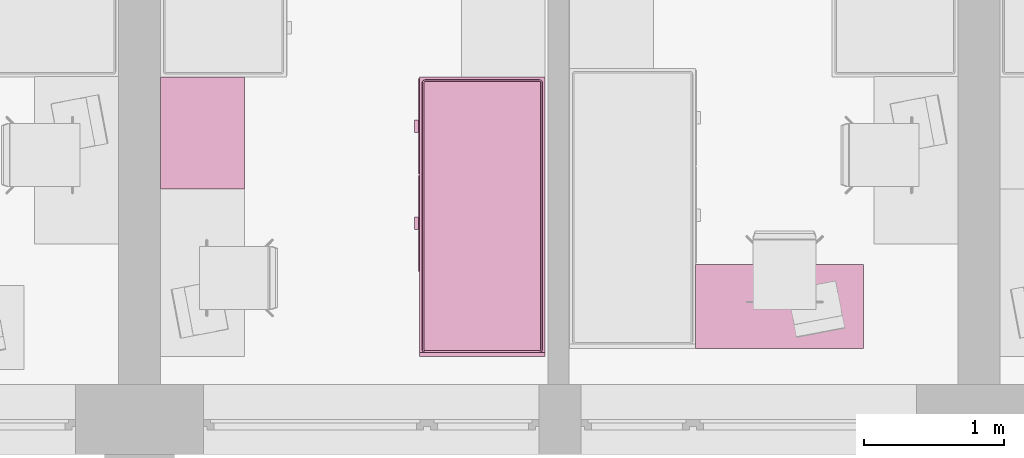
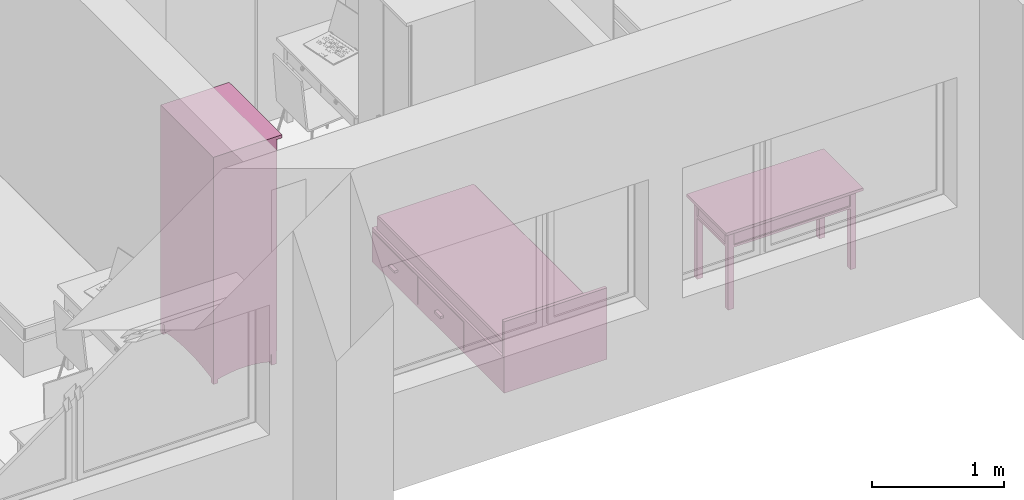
# One storey, part 97 of 172: 3 furnishings.
"""IFC2X3 building model written with IfcOpenShell, lengths in millimetres."""

from ifc_helpers import new_model, entity, si_unit, converted_unit, money_unit, direction, frame, origin_with_axes, place, context, subcontext, project, spatial, faceted_brep, source, transform, mapped, material, material_list, type_object, element, save


model = new_model("IFC2X3")

# Units and contexts
model_context = context("Model", 3, precision=1e-05, world=origin_with_axes(), true_north=direction((0.0, 1.0)))
body_context = subcontext(model_context, "Body", "Model", "MODEL_VIEW")
ifc_project = project(units=[si_unit("LENGTHUNIT", "METRE", prefix="MILLI"), si_unit("AREAUNIT", "SQUARE_METRE"), si_unit("VOLUMEUNIT", "CUBIC_METRE"), converted_unit("PLANEANGLEUNIT", "DEGREE", entity("IfcPlaneAngleMeasure", 0.0174532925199), si_unit("PLANEANGLEUNIT", "RADIAN"), dimensions=[0, 0, 0, 0, 0, 0, 0]), si_unit("SOLIDANGLEUNIT", "STERADIAN"), money_unit("USD"), converted_unit("TIMEUNIT", "Year", entity("IfcTimeMeasure", 31556926.0), si_unit("TIMEUNIT", "SECOND"), dimensions=[0, 0, 0, 0, 0, 0, 0]), si_unit("MASSUNIT", "GRAM"), si_unit("THERMODYNAMICTEMPERATUREUNIT", "DEGREE_CELSIUS"), si_unit("LUMINOUSINTENSITYUNIT", "LUMEN")], contexts=[model_context])

# Site, building, storey
site_placement = place(None, origin_with_axes())
site = spatial("IfcSite", under=ifc_project, at=site_placement, Name="Site", CompositionType="ELEMENT")
building_placement = place(site_placement, origin_with_axes())
building = spatial("IfcBuilding", under=site, at=building_placement, Name="Building", CompositionType="ELEMENT")
storey_placement = place(building_placement, frame((0.0, 0.0, 3200.0), z_axis=(0.0, 0.0, 1.0), x_axis=(1.0, 0.0, 0.0)))
storey = spatial("IfcBuildingStorey", under=building, at=storey_placement, Name="3KORRUS", CompositionType="ELEMENT", Elevation=3200.0)

# Furnishings
ifc_material = material(Name="Background")
ifc_material_list = material_list([ifc_material])
furnishing_element_type_1 = type_object("IfcFurnishingElementType", Name="Bed 19")
shared_shape_1 = source(origin_with_axes(), body_context, "Body", "Brep", [
    faceted_brep([(900.0, 1970.0, 0.0), (0.0, 1970.0, 0.0), (0.0, 2000.0, 0.0), (900.0, 2000.0, 0.0), (900.0, 1970.0, 660.0), (0.0, 1970.0, 660.0), (0.0, 2000.0, 660.0), (900.0, 2000.0, 660.0)], [[[0, 1, 2, 3]], [[1, 0, 4, 5]], [[2, 1, 5, 6]], [[3, 2, 6, 7]], [[0, 3, 7, 4]], [[5, 4, 7, 6]]]),
    faceted_brep([(900.0, 0.0, 0.0), (0.0, 0.0, 0.0), (0.0, 1970.0, 0.0), (900.0, 1970.0, 0.0), (900.0, 0.0, 320.0), (0.0, 0.0, 320.0), (0.0, 1970.0, 320.0), (900.0, 1970.0, 320.0)], [[[0, 1, 2, 3]], [[1, 0, 4, 5]], [[2, 1, 5, 6]], [[3, 2, 6, 7]], [[0, 3, 7, 4]], [[5, 4, 7, 6]]]),
    faceted_brep([(905.0, 10.0, 30.0), (900.0, 10.0, 30.0), (900.0, 695.0, 30.0), (905.0, 695.0, 30.0), (905.0, 10.0, 290.0), (900.0, 10.0, 290.0), (900.0, 695.0, 290.0), (905.0, 695.0, 290.0)], [[[0, 1, 2, 3]], [[1, 0, 4, 5]], [[2, 1, 5, 6]], [[3, 2, 6, 7]], [[0, 3, 7, 4]], [[5, 4, 7, 6]]]),
    faceted_brep([(935.0, 307.5, 150.0), (905.0, 307.5, 150.0), (905.0, 397.5, 150.0), (935.0, 397.5, 150.0), (935.0, 307.5, 170.0), (905.0, 307.5, 170.0), (905.0, 397.5, 170.0), (935.0, 397.5, 170.0)], [[[0, 1, 2, 3]], [[1, 0, 4, 5]], [[2, 1, 5, 6]], [[3, 2, 6, 7]], [[0, 3, 7, 4]], [[5, 4, 7, 6]]]),
    faceted_brep([(905.0, 705.0, 30.0), (900.0, 705.0, 30.0), (900.0, 1390.0, 30.0), (905.0, 1390.0, 30.0), (905.0, 705.0, 290.0), (900.0, 705.0, 290.0), (900.0, 1390.0, 290.0), (905.0, 1390.0, 290.0)], [[[0, 1, 2, 3]], [[1, 0, 4, 5]], [[2, 1, 5, 6]], [[3, 2, 6, 7]], [[0, 3, 7, 4]], [[5, 4, 7, 6]]]),
    faceted_brep([(935.0, 1002.5, 150.0), (905.0, 1002.5, 150.0), (905.0, 1092.5, 150.0), (935.0, 1092.5, 150.0), (935.0, 1002.5, 170.0), (905.0, 1002.5, 170.0), (905.0, 1092.5, 170.0), (935.0, 1092.5, 170.0)], [[[0, 1, 2, 3]], [[1, 0, 4, 5]], [[2, 1, 5, 6]], [[3, 2, 6, 7]], [[0, 3, 7, 4]], [[5, 4, 7, 6]]]),
    faceted_brep([(20.0, 40.0, 350.0), (20.0, 1950.0, 350.0), (21.522, 1957.654, 350.0), (25.858, 1964.142, 350.0), (32.346, 1968.478, 350.0), (40.0, 1970.0, 350.0), (860.0, 1970.0, 350.0), (867.654, 1968.478, 350.0), (874.142, 1964.142, 350.0), (878.478, 1957.654, 350.0), (880.0, 1950.0, 350.0), (880.0, 40.0, 350.0), (878.478, 32.346, 350.0), (874.142, 25.858, 350.0), (867.654, 21.522, 350.0), (860.0, 20.0, 350.0), (40.0, 20.0, 350.0), (32.346, 21.522, 350.0), (25.858, 25.858, 350.0), (21.522, 32.346, 350.0), (20.0, 40.0, 420.0), (20.0, 1950.0, 420.0), (21.522, 1957.654, 420.0), (25.858, 1964.142, 420.0), (32.346, 1968.478, 420.0), (40.0, 1970.0, 420.0), (860.0, 1970.0, 420.0), (867.654, 1968.478, 420.0), (874.142, 1964.142, 420.0), (878.478, 1957.654, 420.0), (880.0, 1950.0, 420.0), (880.0, 40.0, 420.0), (878.478, 32.346, 420.0), (874.142, 25.858, 420.0), (867.654, 21.522, 420.0), (860.0, 20.0, 420.0), (40.0, 20.0, 420.0), (32.346, 21.522, 420.0), (25.858, 25.858, 420.0), (21.522, 32.346, 420.0), (21.522, 40.15, 427.654), (21.522, 1949.85, 427.654), (22.956, 1957.06, 427.654), (26.955, 1963.045, 427.654), (32.94, 1967.044, 427.654), (40.15, 1968.478, 427.654), (859.85, 1968.478, 427.654), (867.06, 1967.044, 427.654), (873.045, 1963.045, 427.654), (877.044, 1957.06, 427.654), (878.478, 1949.85, 427.654), (878.478, 40.15, 427.654), (877.044, 32.94, 427.654), (873.045, 26.955, 427.654), (867.06, 22.956, 427.654), (859.85, 21.522, 427.654), (40.15, 21.522, 427.654), (32.94, 22.956, 427.654), (26.955, 26.955, 427.654), (22.956, 32.94, 427.654), (32.346, 41.216, 438.478), (32.346, 1948.784, 438.478), (33.152, 1952.836, 438.478), (34.759, 1955.241, 438.478), (37.164, 1956.848, 438.478), (41.216, 1957.654, 438.478), (858.784, 1957.654, 438.478), (862.836, 1956.848, 438.478), (865.241, 1955.241, 438.478), (866.848, 1952.836, 438.478), (867.654, 1948.784, 438.478), (867.654, 41.216, 438.478), (866.848, 37.164, 438.478), (865.241, 34.759, 438.478), (862.836, 33.152, 438.478), (858.784, 32.346, 438.478), (41.216, 32.346, 438.478), (37.164, 33.152, 438.478), (34.759, 34.759, 438.478), (33.152, 37.164, 438.478), (40.0, 41.97, 440.0), (40.0, 1948.03, 440.0), (40.327, 1949.673, 440.0), (40.0, 1950.0, 439.924), (41.97, 1950.0, 440.0), (858.03, 1950.0, 440.0), (859.673, 1949.673, 440.0), (860.0, 1950.0, 439.924), (860.0, 1948.03, 440.0), (860.0, 41.97, 440.0), (859.673, 40.327, 440.0), (860.0, 40.0, 439.924), (858.03, 40.0, 440.0), (41.97, 40.0, 440.0), (40.327, 40.327, 440.0), (40.0, 40.0, 439.924)], [[[0, 1, 2, 3, 4, 5, 6, 7, 8, 9, 10, 11, 12, 13, 14, 15, 16, 17, 18, 19]], [[1, 0, 20, 21]], [[2, 1, 21, 22]], [[3, 2, 22, 23]], [[4, 3, 23, 24]], [[5, 4, 24, 25]], [[6, 5, 25, 26]], [[7, 6, 26, 27]], [[8, 7, 27, 28]], [[9, 8, 28, 29]], [[10, 9, 29, 30]], [[11, 10, 30, 31]], [[12, 11, 31, 32]], [[13, 12, 32, 33]], [[14, 13, 33, 34]], [[15, 14, 34, 35]], [[16, 15, 35, 36]], [[17, 16, 36, 37]], [[18, 17, 37, 38]], [[19, 18, 38, 39]], [[0, 19, 39, 20]], [[21, 20, 40, 41]], [[22, 21, 41, 42]], [[23, 22, 42, 43]], [[24, 23, 43, 44]], [[25, 24, 44, 45]], [[26, 25, 45, 46]], [[27, 26, 46, 47]], [[28, 27, 47, 48]], [[29, 28, 48, 49]], [[30, 29, 49, 50]], [[31, 30, 50, 51]], [[32, 31, 51, 52]], [[33, 32, 52, 53]], [[34, 33, 53, 54]], [[35, 34, 54, 55]], [[36, 35, 55, 56]], [[37, 36, 56, 57]], [[38, 37, 57, 58]], [[39, 38, 58, 59]], [[20, 39, 59, 40]], [[41, 40, 60, 61]], [[42, 41, 61, 62]], [[43, 42, 62, 63]], [[44, 43, 63, 64]], [[45, 44, 64, 65]], [[46, 45, 65, 66]], [[47, 46, 66, 67]], [[48, 47, 67, 68]], [[49, 48, 68, 69]], [[50, 49, 69, 70]], [[51, 50, 70, 71]], [[52, 51, 71, 72]], [[53, 52, 72, 73]], [[54, 53, 73, 74]], [[55, 54, 74, 75]], [[56, 55, 75, 76]], [[57, 56, 76, 77]], [[58, 57, 77, 78]], [[59, 58, 78, 79]], [[40, 59, 79, 60]], [[61, 60, 80, 81]], [[62, 61, 81, 82, 83]], [[63, 62, 83]], [[64, 63, 83]], [[65, 64, 83, 82, 84]], [[66, 65, 84, 85]], [[67, 66, 85, 86, 87]], [[68, 67, 87]], [[69, 68, 87]], [[70, 69, 87, 86, 88]], [[71, 70, 88, 89]], [[72, 71, 89, 90, 91]], [[73, 72, 91]], [[74, 73, 91]], [[75, 74, 91, 90, 92]], [[76, 75, 92, 93]], [[77, 76, 93, 94, 95]], [[78, 77, 95]], [[79, 78, 95]], [[60, 79, 95, 94, 80]], [[81, 80, 94, 93, 92, 90, 89, 88, 86, 85, 84, 82]]]),
    faceted_brep([(20.0, 40.0, 350.0), (21.522, 32.346, 350.0), (25.858, 25.858, 350.0), (32.346, 21.522, 350.0), (40.0, 20.0, 350.0), (860.0, 20.0, 350.0), (867.654, 21.522, 350.0), (874.142, 25.858, 350.0), (878.478, 32.346, 350.0), (880.0, 40.0, 350.0), (880.0, 1950.0, 350.0), (878.478, 1957.654, 350.0), (874.142, 1964.142, 350.0), (867.654, 1968.478, 350.0), (860.0, 1970.0, 350.0), (40.0, 1970.0, 350.0), (32.346, 1968.478, 350.0), (25.858, 1964.142, 350.0), (21.522, 1957.654, 350.0), (20.0, 1950.0, 350.0), (20.0, 40.0, 320.0), (21.522, 32.346, 320.0), (25.858, 25.858, 320.0), (32.346, 21.522, 320.0), (40.0, 20.0, 320.0), (860.0, 20.0, 320.0), (867.654, 21.522, 320.0), (874.142, 25.858, 320.0), (878.478, 32.346, 320.0), (880.0, 40.0, 320.0), (880.0, 1950.0, 320.0), (878.478, 1957.654, 320.0), (874.142, 1964.142, 320.0), (867.654, 1968.478, 320.0), (860.0, 1970.0, 320.0), (40.0, 1970.0, 320.0), (32.346, 1968.478, 320.0), (25.858, 1964.142, 320.0), (21.522, 1957.654, 320.0), (20.0, 1950.0, 320.0)], [[[0, 1, 2, 3, 4, 5, 6, 7, 8, 9, 10, 11, 12, 13, 14, 15, 16, 17, 18, 19]], [[0, 20, 21, 1]], [[1, 21, 22, 2]], [[2, 22, 23, 3]], [[3, 23, 24, 4]], [[4, 24, 25, 5]], [[5, 25, 26, 6]], [[6, 26, 27, 7]], [[7, 27, 28, 8]], [[8, 28, 29, 9]], [[9, 29, 30, 10]], [[10, 30, 31, 11]], [[11, 31, 32, 12]], [[12, 32, 33, 13]], [[13, 33, 34, 14]], [[14, 34, 35, 15]], [[15, 35, 36, 16]], [[16, 36, 37, 17]], [[17, 37, 38, 18]], [[18, 38, 39, 19]], [[19, 39, 20, 0]], [[20, 39, 38, 37, 36, 35, 34, 33, 32, 31, 30, 29, 28, 27, 26, 25, 24, 23, 22, 21]]]),
])
furnishing_1_placement = place(storey_placement, frame((-33240.2967033, -17439.2398994, 0.0), z_axis=(0.0, 0.0, 1.0), x_axis=(-1.0, 0.0, 0.0)))
element("IfcFurnishingElement", 1, at=furnishing_1_placement, inside=storey, type_object=furnishing_element_type_1, material=ifc_material_list, Name="FU - 013", context=body_context, shape_type="MappedRepresentation", body=[
    mapped(shared_shape_1, transform((0.0, 0.0, 0.0))),
])
furnishing_element_type_2 = type_object("IfcFurnishingElementType", Name="Cupboard 19")
shared_shape_2 = source(origin_with_axes(), body_context, "Body", "Brep", [
    faceted_brep([(780.0, 600.0, 120.0), (780.0, 600.0, 2050.0), (780.0, 580.0, 2050.0), (780.0, 580.0, 120.0), (20.0, 600.0, 120.0), (20.0, 600.0, 2050.0), (20.0, 580.0, 2050.0), (20.0, 580.0, 120.0)], [[[0, 1, 2, 3]], [[4, 5, 1, 0]], [[1, 5, 6, 2]], [[3, 2, 6, 7]], [[0, 3, 7, 4]], [[7, 6, 5, 4]]]),
    faceted_brep([(0.0, 50.0, 100.0), (0.0, 600.0, 100.0), (20.0, 600.0, 100.0), (20.0, 50.0, 100.0), (0.0, 50.0, 2070.0), (0.0, 600.0, 2070.0), (20.0, 600.0, 2070.0), (20.0, 50.0, 2070.0)], [[[0, 1, 2, 3]], [[0, 4, 5, 1]], [[1, 5, 6, 2]], [[2, 6, 7, 3]], [[3, 7, 4, 0]], [[7, 6, 5, 4]]]),
    faceted_brep([(780.0, 50.0, 100.0), (780.0, 600.0, 100.0), (800.0, 600.0, 100.0), (800.0, 50.0, 100.0), (780.0, 50.0, 2070.0), (780.0, 600.0, 2070.0), (800.0, 600.0, 2070.0), (800.0, 50.0, 2070.0)], [[[0, 1, 2, 3]], [[0, 4, 5, 1]], [[1, 5, 6, 2]], [[2, 6, 7, 3]], [[3, 7, 4, 0]], [[7, 6, 5, 4]]]),
    faceted_brep([(20.0, 50.0, 100.0), (20.0, 600.0, 100.0), (780.0, 600.0, 100.0), (780.0, 50.0, 100.0), (20.0, 50.0, 120.0), (20.0, 600.0, 120.0), (780.0, 600.0, 120.0), (780.0, 50.0, 120.0)], [[[0, 1, 2, 3]], [[0, 4, 5, 1]], [[1, 5, 6, 2]], [[2, 6, 7, 3]], [[3, 7, 4, 0]], [[7, 6, 5, 4]]]),
    faceted_brep([(20.0, 50.0, 2050.0), (20.0, 600.0, 2050.0), (780.0, 600.0, 2050.0), (780.0, 50.0, 2050.0), (20.0, 50.0, 2070.0), (20.0, 600.0, 2070.0), (780.0, 600.0, 2070.0), (780.0, 50.0, 2070.0)], [[[0, 1, 2, 3]], [[0, 4, 5, 1]], [[1, 5, 6, 2]], [[2, 6, 7, 3]], [[3, 7, 4, 0]], [[7, 6, 5, 4]]]),
    faceted_brep([(0.0, 600.0, 2070.0), (0.0, 0.0, 2070.0), (0.0, 0.0, 2100.0), (0.0, 600.0, 2100.0), (800.0, 600.0, 2070.0), (800.0, 0.0, 2070.0), (800.0, 0.0, 2100.0), (800.0, 600.0, 2100.0)], [[[0, 1, 2, 3]], [[0, 4, 5, 1]], [[1, 5, 6, 2]], [[3, 2, 6, 7]], [[4, 0, 3, 7]], [[5, 4, 7, 6]]]),
    faceted_brep([(760.0, 590.0, 25.0), (760.0, 570.0, 25.0), (640.962, 570.0, 45.8), (640.962, 590.0, 45.8), (760.0, 590.0, 100.0), (760.0, 570.0, 100.0), (40.0, 570.0, 100.0), (40.0, 570.0, 25.0), (159.038, 570.0, 45.8), (279.23, 570.0, 58.32), (400.0, 570.0, 62.5), (520.77, 570.0, 58.32), (520.77, 590.0, 58.32), (400.0, 590.0, 62.5), (279.23, 590.0, 58.32), (159.038, 590.0, 45.8), (40.0, 590.0, 25.0), (40.0, 590.0, 100.0)], [[[0, 1, 2, 3]], [[4, 5, 1, 0]], [[1, 5, 6, 7, 8, 9, 10, 11, 2]], [[3, 2, 11, 12]], [[0, 3, 12, 13, 14, 15, 16, 17, 4]], [[17, 6, 5, 4]], [[16, 7, 6, 17]], [[15, 8, 7, 16]], [[14, 9, 8, 15]], [[13, 10, 9, 14]], [[12, 11, 10, 13]]]),
    faceted_brep([(760.0, 80.0, 25.0), (760.0, 60.0, 25.0), (640.962, 60.0, 45.8), (640.962, 80.0, 45.8), (760.0, 80.0, 100.0), (760.0, 60.0, 100.0), (40.0, 60.0, 100.0), (40.0, 60.0, 25.0), (159.038, 60.0, 45.8), (279.23, 60.0, 58.32), (400.0, 60.0, 62.5), (520.77, 60.0, 58.32), (520.77, 80.0, 58.32), (400.0, 80.0, 62.5), (279.23, 80.0, 58.32), (159.038, 80.0, 45.8), (40.0, 80.0, 25.0), (40.0, 80.0, 100.0)], [[[0, 1, 2, 3]], [[4, 5, 1, 0]], [[1, 5, 6, 7, 8, 9, 10, 11, 2]], [[3, 2, 11, 12]], [[0, 3, 12, 13, 14, 15, 16, 17, 4]], [[17, 6, 5, 4]], [[16, 7, 6, 17]], [[15, 8, 7, 16]], [[14, 9, 8, 15]], [[13, 10, 9, 14]], [[12, 11, 10, 13]]]),
    faceted_brep([(790.0, 90.0, 25.0), (770.0, 90.0, 25.0), (770.0, 141.266, 38.072), (790.0, 141.266, 38.072), (790.0, 90.0, 100.0), (770.0, 90.0, 100.0), (770.0, 560.0, 100.0), (770.0, 560.0, 25.0), (770.0, 508.734, 38.072), (770.0, 456.752, 47.92), (770.0, 404.257, 54.508), (770.0, 351.453, 57.808), (770.0, 298.547, 57.808), (770.0, 245.743, 54.508), (770.0, 193.248, 47.92), (790.0, 193.248, 47.92), (790.0, 245.743, 54.508), (790.0, 298.547, 57.808), (790.0, 351.453, 57.808), (790.0, 404.257, 54.508), (790.0, 456.752, 47.92), (790.0, 508.734, 38.072), (790.0, 560.0, 25.0), (790.0, 560.0, 100.0)], [[[0, 1, 2, 3]], [[4, 5, 1, 0]], [[1, 5, 6, 7, 8, 9, 10, 11, 12, 13, 14, 2]], [[3, 2, 14, 15]], [[0, 3, 15, 16, 17, 18, 19, 20, 21, 22, 23, 4]], [[23, 6, 5, 4]], [[22, 7, 6, 23]], [[21, 8, 7, 22]], [[20, 9, 8, 21]], [[19, 10, 9, 20]], [[18, 11, 10, 19]], [[17, 12, 11, 18]], [[16, 13, 12, 17]], [[15, 14, 13, 16]]]),
    faceted_brep([(30.0, 90.0, 25.0), (10.0, 90.0, 25.0), (10.0, 141.266, 38.072), (30.0, 141.266, 38.072), (30.0, 90.0, 100.0), (10.0, 90.0, 100.0), (10.0, 560.0, 100.0), (10.0, 560.0, 25.0), (10.0, 508.734, 38.072), (10.0, 456.752, 47.92), (10.0, 404.257, 54.508), (10.0, 351.453, 57.808), (10.0, 298.547, 57.808), (10.0, 245.743, 54.508), (10.0, 193.248, 47.92), (30.0, 193.248, 47.92), (30.0, 245.743, 54.508), (30.0, 298.547, 57.808), (30.0, 351.453, 57.808), (30.0, 404.257, 54.508), (30.0, 456.752, 47.92), (30.0, 508.734, 38.072), (30.0, 560.0, 25.0), (30.0, 560.0, 100.0)], [[[0, 1, 2, 3]], [[4, 5, 1, 0]], [[1, 5, 6, 7, 8, 9, 10, 11, 12, 13, 14, 2]], [[3, 2, 14, 15]], [[0, 3, 15, 16, 17, 18, 19, 20, 21, 22, 23, 4]], [[23, 6, 5, 4]], [[22, 7, 6, 23]], [[21, 8, 7, 22]], [[20, 9, 8, 21]], [[19, 10, 9, 20]], [[18, 11, 10, 19]], [[17, 12, 11, 18]], [[16, 13, 12, 17]], [[15, 14, 13, 16]]]),
    faceted_brep([(760.0, 560.0, 0.0), (760.0, 560.0, 100.0), (760.0, 600.0, 100.0), (760.0, 600.0, 0.0), (800.0, 560.0, 0.0), (800.0, 560.0, 100.0), (800.0, 600.0, 100.0), (800.0, 600.0, 0.0)], [[[0, 1, 2, 3]], [[4, 5, 1, 0]], [[1, 5, 6, 2]], [[3, 2, 6, 7]], [[0, 3, 7, 4]], [[7, 6, 5, 4]]]),
    faceted_brep([(0.0, 560.0, 0.0), (0.0, 560.0, 100.0), (0.0, 600.0, 100.0), (0.0, 600.0, 0.0), (40.0, 560.0, 0.0), (40.0, 560.0, 100.0), (40.0, 600.0, 100.0), (40.0, 600.0, 0.0)], [[[0, 1, 2, 3]], [[4, 5, 1, 0]], [[1, 5, 6, 2]], [[3, 2, 6, 7]], [[0, 3, 7, 4]], [[7, 6, 5, 4]]]),
    faceted_brep([(760.0, 50.0, 0.0), (760.0, 50.0, 100.0), (760.0, 90.0, 100.0), (760.0, 90.0, 0.0), (800.0, 50.0, 0.0), (800.0, 50.0, 100.0), (800.0, 90.0, 100.0), (800.0, 90.0, 0.0)], [[[0, 1, 2, 3]], [[4, 5, 1, 0]], [[1, 5, 6, 2]], [[3, 2, 6, 7]], [[0, 3, 7, 4]], [[7, 6, 5, 4]]]),
    faceted_brep([(0.0, 50.0, 0.0), (0.0, 50.0, 100.0), (0.0, 90.0, 100.0), (0.0, 90.0, 0.0), (40.0, 50.0, 0.0), (40.0, 50.0, 100.0), (40.0, 90.0, 100.0), (40.0, 90.0, 0.0)], [[[0, 1, 2, 3]], [[4, 5, 1, 0]], [[1, 5, 6, 2]], [[3, 2, 6, 7]], [[0, 3, 7, 4]], [[7, 6, 5, 4]]]),
    faceted_brep([(780.0, 580.0, 587.5), (780.0, 580.0, 607.5), (780.0, 50.0, 607.5), (780.0, 50.0, 587.5), (20.0, 580.0, 587.5), (20.0, 580.0, 607.5), (20.0, 50.0, 607.5), (20.0, 50.0, 587.5)], [[[0, 1, 2, 3]], [[4, 5, 1, 0]], [[1, 5, 6, 2]], [[3, 2, 6, 7]], [[0, 3, 7, 4]], [[7, 6, 5, 4]]]),
    faceted_brep([(780.0, 580.0, 1075.0), (780.0, 580.0, 1095.0), (780.0, 50.0, 1095.0), (780.0, 50.0, 1075.0), (20.0, 580.0, 1075.0), (20.0, 580.0, 1095.0), (20.0, 50.0, 1095.0), (20.0, 50.0, 1075.0)], [[[0, 1, 2, 3]], [[4, 5, 1, 0]], [[1, 5, 6, 2]], [[3, 2, 6, 7]], [[0, 3, 7, 4]], [[7, 6, 5, 4]]]),
    faceted_brep([(780.0, 580.0, 1562.5), (780.0, 580.0, 1582.5), (780.0, 50.0, 1582.5), (780.0, 50.0, 1562.5), (20.0, 580.0, 1562.5), (20.0, 580.0, 1582.5), (20.0, 50.0, 1582.5), (20.0, 50.0, 1562.5)], [[[0, 1, 2, 3]], [[4, 5, 1, 0]], [[1, 5, 6, 2]], [[3, 2, 6, 7]], [[0, 3, 7, 4]], [[7, 6, 5, 4]]]),
    faceted_brep([(789.5, 50.0, 110.5), (400.5, 50.0, 110.5), (400.5, 50.0, 2059.5), (789.5, 50.0, 2059.5), (789.5, 40.0, 110.5), (400.5, 40.0, 110.5), (400.5, 40.0, 2059.5), (789.5, 40.0, 2059.5), (779.5, 30.0, 120.5), (410.5, 30.0, 120.5), (410.5, 30.0, 2049.5), (779.5, 30.0, 2049.5)], [[[0, 1, 2, 3]], [[0, 4, 5, 1]], [[1, 5, 6, 2]], [[2, 6, 7, 3]], [[3, 7, 4, 0]], [[4, 8, 9, 5]], [[5, 9, 10, 6]], [[6, 10, 11, 7]], [[7, 11, 8, 4]], [[10, 9, 8, 11]]]),
    faceted_brep([(399.5, 50.0, 110.5), (10.5, 50.0, 110.5), (10.5, 50.0, 2059.5), (399.5, 50.0, 2059.5), (399.5, 40.0, 110.5), (10.5, 40.0, 110.5), (10.5, 40.0, 2059.5), (399.5, 40.0, 2059.5), (389.5, 30.0, 120.5), (20.5, 30.0, 120.5), (20.5, 30.0, 2049.5), (389.5, 30.0, 2049.5)], [[[0, 1, 2, 3]], [[0, 4, 5, 1]], [[1, 5, 6, 2]], [[2, 6, 7, 3]], [[3, 7, 4, 0]], [[4, 8, 9, 5]], [[5, 9, 10, 6]], [[6, 10, 11, 7]], [[7, 11, 8, 4]], [[10, 9, 8, 11]]]),
    faceted_brep([(339.608, 30.0, 954.0), (338.0, 30.0, 960.0), (339.608, 30.0, 966.0), (344.0, 30.0, 970.392), (350.0, 30.0, 972.0), (356.0, 30.0, 970.392), (360.392, 30.0, 966.0), (362.0, 30.0, 960.0), (360.392, 30.0, 954.0), (356.0, 30.0, 949.608), (350.0, 30.0, 948.0), (344.0, 30.0, 949.608), (339.608, 5.0, 954.0), (338.0, 5.0, 960.0), (339.608, 5.0, 966.0), (344.0, 5.0, 970.392), (350.0, 5.0, 972.0), (356.0, 5.0, 970.392), (360.392, 5.0, 966.0), (362.0, 5.0, 960.0), (360.392, 5.0, 954.0), (356.0, 5.0, 949.608), (350.0, 5.0, 948.0), (344.0, 5.0, 949.608)], [[[0, 1, 2, 3, 4, 5, 6, 7, 8, 9, 10, 11]], [[0, 12, 13, 1]], [[1, 13, 14, 2]], [[2, 14, 15, 3]], [[3, 15, 16, 4]], [[4, 16, 17, 5]], [[5, 17, 18, 6]], [[6, 18, 19, 7]], [[7, 19, 20, 8]], [[8, 20, 21, 9]], [[9, 21, 22, 10]], [[10, 22, 23, 11]], [[11, 23, 12, 0]], [[12, 23, 22, 21, 20, 19, 18, 17, 16, 15, 14, 13]]]),
    faceted_brep([(460.392, 30.0, 954.0), (456.0, 30.0, 949.608), (450.0, 30.0, 948.0), (444.0, 30.0, 949.608), (439.608, 30.0, 954.0), (438.0, 30.0, 960.0), (439.608, 30.0, 966.0), (444.0, 30.0, 970.392), (450.0, 30.0, 972.0), (456.0, 30.0, 970.392), (460.392, 30.0, 966.0), (462.0, 30.0, 960.0), (460.392, 5.0, 954.0), (456.0, 5.0, 949.608), (450.0, 5.0, 948.0), (444.0, 5.0, 949.608), (439.608, 5.0, 954.0), (438.0, 5.0, 960.0), (439.608, 5.0, 966.0), (444.0, 5.0, 970.392), (450.0, 5.0, 972.0), (456.0, 5.0, 970.392), (460.392, 5.0, 966.0), (462.0, 5.0, 960.0)], [[[0, 1, 2, 3, 4, 5, 6, 7, 8, 9, 10, 11]], [[1, 0, 12, 13]], [[2, 1, 13, 14]], [[3, 2, 14, 15]], [[4, 3, 15, 16]], [[5, 4, 16, 17]], [[6, 5, 17, 18]], [[7, 6, 18, 19]], [[8, 7, 19, 20]], [[9, 8, 20, 21]], [[10, 9, 21, 22]], [[11, 10, 22, 23]], [[0, 11, 23, 12]], [[12, 23, 22, 21, 20, 19, 18, 17, 16, 15, 14, 13]]]),
])
furnishing_2_placement = place(storey_placement, frame((-35390.2967033, -18239.2398994, 0.0), z_axis=(0.0, 0.0, 1.0), x_axis=(0.0, 1.0, 0.0)))
element("IfcFurnishingElement", 2, at=furnishing_2_placement, inside=storey, type_object=furnishing_element_type_2, material=ifc_material_list, Name="FU - 014", context=body_context, shape_type="MappedRepresentation", body=[
    mapped(shared_shape_2, transform((0.0, 0.0, 0.0))),
])
furnishing_element_type_3 = type_object("IfcFurnishingElementType", Name="Rectangular Table 01 19")
shared_shape_3 = source(origin_with_axes(), body_context, "Body", "Brep", [
    faceted_brep([(90.0, 40.0, 0.0), (40.0, 40.0, 0.0), (40.0, 90.0, 0.0), (90.0, 90.0, 0.0), (90.0, 40.0, 725.0), (40.0, 40.0, 725.0), (40.0, 90.0, 725.0), (90.0, 90.0, 725.0)], [[[0, 1, 2, 3]], [[1, 0, 4, 5]], [[2, 1, 5, 6]], [[3, 2, 6, 7]], [[0, 3, 7, 4]], [[5, 4, 7, 6]]]),
    faceted_brep([(1160.0, 40.0, 0.0), (1110.0, 40.0, 0.0), (1110.0, 90.0, 0.0), (1160.0, 90.0, 0.0), (1160.0, 40.0, 725.0), (1110.0, 40.0, 725.0), (1110.0, 90.0, 725.0), (1160.0, 90.0, 725.0)], [[[0, 1, 2, 3]], [[1, 0, 4, 5]], [[2, 1, 5, 6]], [[3, 2, 6, 7]], [[0, 3, 7, 4]], [[5, 4, 7, 6]]]),
    faceted_brep([(90.0, 510.0, 0.0), (40.0, 510.0, 0.0), (40.0, 560.0, 0.0), (90.0, 560.0, 0.0), (90.0, 510.0, 725.0), (40.0, 510.0, 725.0), (40.0, 560.0, 725.0), (90.0, 560.0, 725.0)], [[[0, 1, 2, 3]], [[1, 0, 4, 5]], [[2, 1, 5, 6]], [[3, 2, 6, 7]], [[0, 3, 7, 4]], [[5, 4, 7, 6]]]),
    faceted_brep([(1160.0, 510.0, 0.0), (1110.0, 510.0, 0.0), (1110.0, 560.0, 0.0), (1160.0, 560.0, 0.0), (1160.0, 510.0, 725.0), (1110.0, 510.0, 725.0), (1110.0, 560.0, 725.0), (1160.0, 560.0, 725.0)], [[[0, 1, 2, 3]], [[1, 0, 4, 5]], [[2, 1, 5, 6]], [[3, 2, 6, 7]], [[0, 3, 7, 4]], [[5, 4, 7, 6]]]),
    faceted_brep([(1160.0, 40.0, 565.0), (40.0, 40.0, 565.0), (40.0, 560.0, 565.0), (1160.0, 560.0, 565.0), (1160.0, 40.0, 585.0), (40.0, 40.0, 585.0), (40.0, 560.0, 585.0), (1160.0, 560.0, 585.0)], [[[0, 1, 2, 3]], [[1, 0, 4, 5]], [[2, 1, 5, 6]], [[3, 2, 6, 7]], [[0, 3, 7, 4]], [[5, 4, 7, 6]]]),
    faceted_brep([(1110.0, 52.5, 585.0), (90.0, 52.5, 585.0), (90.0, 77.5, 585.0), (1110.0, 77.5, 585.0), (1110.0, 52.5, 745.0), (90.0, 52.5, 745.0), (90.0, 77.5, 745.0), (1110.0, 77.5, 745.0)], [[[0, 1, 2, 3]], [[1, 0, 4, 5]], [[2, 1, 5, 6]], [[3, 2, 6, 7]], [[0, 3, 7, 4]], [[5, 4, 7, 6]]]),
    faceted_brep([(77.5, 90.0, 585.0), (52.5, 90.0, 585.0), (52.5, 510.0, 585.0), (77.5, 510.0, 585.0), (77.5, 90.0, 745.0), (52.5, 90.0, 745.0), (52.5, 510.0, 745.0), (77.5, 510.0, 745.0)], [[[0, 1, 2, 3]], [[1, 0, 4, 5]], [[2, 1, 5, 6]], [[3, 2, 6, 7]], [[0, 3, 7, 4]], [[5, 4, 7, 6]]]),
    faceted_brep([(90.0, 547.5, 585.0), (1110.0, 547.5, 585.0), (1110.0, 522.5, 585.0), (90.0, 522.5, 585.0), (90.0, 547.5, 745.0), (1110.0, 547.5, 745.0), (1110.0, 522.5, 745.0), (90.0, 522.5, 745.0)], [[[0, 1, 2, 3]], [[1, 0, 4, 5]], [[2, 1, 5, 6]], [[3, 2, 6, 7]], [[0, 3, 7, 4]], [[5, 4, 7, 6]]]),
    faceted_brep([(1122.5, 510.0, 585.0), (1147.5, 510.0, 585.0), (1147.5, 90.0, 585.0), (1122.5, 90.0, 585.0), (1122.5, 510.0, 745.0), (1147.5, 510.0, 745.0), (1147.5, 90.0, 745.0), (1122.5, 90.0, 745.0)], [[[0, 1, 2, 3]], [[1, 0, 4, 5]], [[2, 1, 5, 6]], [[3, 2, 6, 7]], [[0, 3, 7, 4]], [[5, 4, 7, 6]]]),
    faceted_brep([(597.5, 40.0, 585.0), (95.0, 40.0, 585.0), (95.0, 60.0, 585.0), (597.5, 60.0, 585.0), (597.5, 40.0, 745.0), (95.0, 40.0, 745.0), (95.0, 60.0, 745.0), (597.5, 60.0, 745.0)], [[[0, 1, 2, 3]], [[1, 0, 4, 5]], [[2, 1, 5, 6]], [[3, 2, 6, 7]], [[0, 3, 7, 4]], [[5, 4, 7, 6]]]),
    faceted_brep([(1105.0, 40.0, 585.0), (602.5, 40.0, 585.0), (602.5, 60.0, 585.0), (1105.0, 60.0, 585.0), (1105.0, 40.0, 745.0), (602.5, 40.0, 745.0), (602.5, 60.0, 745.0), (1105.0, 60.0, 745.0)], [[[0, 1, 2, 3]], [[1, 0, 4, 5]], [[2, 1, 5, 6]], [[3, 2, 6, 7]], [[0, 3, 7, 4]], [[5, 4, 7, 6]]]),
    faceted_brep([(354.91, 40.0, 660.0), (351.25, 40.0, 656.34), (346.25, 40.0, 655.0), (341.25, 40.0, 656.34), (337.59, 40.0, 660.0), (336.25, 40.0, 665.0), (337.59, 40.0, 670.0), (341.25, 40.0, 673.66), (346.25, 40.0, 675.0), (351.25, 40.0, 673.66), (354.91, 40.0, 670.0), (356.25, 40.0, 665.0), (354.91, 25.0, 660.0), (351.25, 25.0, 656.34), (346.25, 25.0, 655.0), (341.25, 25.0, 656.34), (337.59, 25.0, 660.0), (336.25, 25.0, 665.0), (337.59, 25.0, 670.0), (341.25, 25.0, 673.66), (346.25, 25.0, 675.0), (351.25, 25.0, 673.66), (354.91, 25.0, 670.0), (356.25, 25.0, 665.0)], [[[0, 1, 2, 3, 4, 5, 6, 7, 8, 9, 10, 11]], [[1, 0, 12, 13]], [[2, 1, 13, 14]], [[3, 2, 14, 15]], [[4, 3, 15, 16]], [[5, 4, 16, 17]], [[6, 5, 17, 18]], [[7, 6, 18, 19]], [[8, 7, 19, 20]], [[9, 8, 20, 21]], [[10, 9, 21, 22]], [[11, 10, 22, 23]], [[0, 11, 23, 12]], [[12, 23, 22, 21, 20, 19, 18, 17, 16, 15, 14, 13]]]),
    faceted_brep([(356.25, 12.01, 665.0), (346.25, 10.0, 665.0), (354.91, 12.01, 660.0), (354.91, 12.01, 670.0), (351.25, 12.01, 656.34), (363.571, 17.5, 665.0), (361.25, 17.5, 656.34), (351.25, 12.01, 673.66), (361.25, 17.5, 673.66), (346.25, 12.01, 655.0), (354.91, 17.5, 650.0), (366.25, 25.0, 665.0), (363.571, 25.0, 655.0), (346.25, 12.01, 675.0), (354.91, 17.5, 680.0), (363.571, 25.0, 675.0), (341.25, 12.01, 656.34), (346.25, 17.5, 647.679), (356.25, 25.0, 647.679), (346.25, 25.0, 645.0), (336.25, 25.0, 647.679), (328.929, 25.0, 655.0), (326.25, 25.0, 665.0), (328.929, 25.0, 675.0), (336.25, 25.0, 682.321), (346.25, 25.0, 685.0), (356.25, 25.0, 682.321), (341.25, 12.01, 673.66), (346.25, 17.5, 682.321), (337.59, 12.01, 660.0), (337.59, 17.5, 650.0), (331.25, 17.5, 656.34), (328.929, 17.5, 665.0), (331.25, 17.5, 673.66), (337.59, 17.5, 680.0), (337.59, 12.01, 670.0), (336.25, 12.01, 665.0)], [[[0, 1, 2]], [[3, 1, 0]], [[2, 1, 4]], [[5, 0, 2, 6]], [[7, 1, 3]], [[8, 3, 0, 5]], [[4, 1, 9]], [[6, 2, 4, 10]], [[11, 5, 6, 12]], [[13, 1, 7]], [[14, 7, 3, 8]], [[15, 8, 5, 11]], [[9, 1, 16]], [[10, 4, 9, 17]], [[12, 6, 10, 18]], [[12, 18, 19, 20, 21, 22, 23, 24, 25, 26, 15, 11]], [[27, 1, 13]], [[28, 13, 7, 14]], [[26, 14, 8, 15]], [[16, 1, 29]], [[17, 9, 16, 30]], [[18, 10, 17, 19]], [[19, 17, 30, 20]], [[20, 30, 31, 21]], [[21, 31, 32, 22]], [[22, 32, 33, 23]], [[23, 33, 34, 24]], [[24, 34, 28, 25]], [[25, 28, 14, 26]], [[35, 1, 27]], [[34, 27, 13, 28]], [[29, 1, 36]], [[30, 16, 29, 31]], [[31, 29, 36, 32]], [[32, 36, 35, 33]], [[33, 35, 27, 34]], [[36, 1, 35]]]),
    faceted_brep([(862.41, 40.0, 660.0), (858.75, 40.0, 656.34), (853.75, 40.0, 655.0), (848.75, 40.0, 656.34), (845.09, 40.0, 660.0), (843.75, 40.0, 665.0), (845.09, 40.0, 670.0), (848.75, 40.0, 673.66), (853.75, 40.0, 675.0), (858.75, 40.0, 673.66), (862.41, 40.0, 670.0), (863.75, 40.0, 665.0), (862.41, 25.0, 660.0), (858.75, 25.0, 656.34), (853.75, 25.0, 655.0), (848.75, 25.0, 656.34), (845.09, 25.0, 660.0), (843.75, 25.0, 665.0), (845.09, 25.0, 670.0), (848.75, 25.0, 673.66), (853.75, 25.0, 675.0), (858.75, 25.0, 673.66), (862.41, 25.0, 670.0), (863.75, 25.0, 665.0)], [[[0, 1, 2, 3, 4, 5, 6, 7, 8, 9, 10, 11]], [[1, 0, 12, 13]], [[2, 1, 13, 14]], [[3, 2, 14, 15]], [[4, 3, 15, 16]], [[5, 4, 16, 17]], [[6, 5, 17, 18]], [[7, 6, 18, 19]], [[8, 7, 19, 20]], [[9, 8, 20, 21]], [[10, 9, 21, 22]], [[11, 10, 22, 23]], [[0, 11, 23, 12]], [[12, 23, 22, 21, 20, 19, 18, 17, 16, 15, 14, 13]]]),
    faceted_brep([(863.75, 12.01, 665.0), (853.75, 10.0, 665.0), (862.41, 12.01, 660.0), (862.41, 12.01, 670.0), (858.75, 12.01, 656.34), (871.071, 17.5, 665.0), (868.75, 17.5, 656.34), (858.75, 12.01, 673.66), (868.75, 17.5, 673.66), (853.75, 12.01, 655.0), (862.41, 17.5, 650.0), (873.75, 25.0, 665.0), (871.071, 25.0, 655.0), (853.75, 12.01, 675.0), (862.41, 17.5, 680.0), (871.071, 25.0, 675.0), (848.75, 12.01, 656.34), (853.75, 17.5, 647.679), (863.75, 25.0, 647.679), (853.75, 25.0, 645.0), (843.75, 25.0, 647.679), (836.429, 25.0, 655.0), (833.75, 25.0, 665.0), (836.429, 25.0, 675.0), (843.75, 25.0, 682.321), (853.75, 25.0, 685.0), (863.75, 25.0, 682.321), (848.75, 12.01, 673.66), (853.75, 17.5, 682.321), (845.09, 12.01, 660.0), (845.09, 17.5, 650.0), (838.75, 17.5, 656.34), (836.429, 17.5, 665.0), (838.75, 17.5, 673.66), (845.09, 17.5, 680.0), (845.09, 12.01, 670.0), (843.75, 12.01, 665.0)], [[[0, 1, 2]], [[3, 1, 0]], [[2, 1, 4]], [[5, 0, 2, 6]], [[7, 1, 3]], [[8, 3, 0, 5]], [[4, 1, 9]], [[6, 2, 4, 10]], [[11, 5, 6, 12]], [[13, 1, 7]], [[14, 7, 3, 8]], [[15, 8, 5, 11]], [[9, 1, 16]], [[10, 4, 9, 17]], [[12, 6, 10, 18]], [[12, 18, 19, 20, 21, 22, 23, 24, 25, 26, 15, 11]], [[27, 1, 13]], [[28, 13, 7, 14]], [[26, 14, 8, 15]], [[16, 1, 29]], [[17, 9, 16, 30]], [[18, 10, 17, 19]], [[19, 17, 30, 20]], [[20, 30, 31, 21]], [[21, 31, 32, 22]], [[22, 32, 33, 23]], [[23, 33, 34, 24]], [[24, 34, 28, 25]], [[25, 28, 14, 26]], [[35, 1, 27]], [[34, 27, 13, 28]], [[29, 1, 36]], [[30, 16, 29, 31]], [[31, 29, 36, 32]], [[32, 36, 35, 33]], [[33, 35, 27, 34]], [[36, 1, 35]]]),
    faceted_brep([(1200.0, 0.0, 725.0), (0.0, 0.0, 725.0), (0.0, 600.0, 725.0), (1200.0, 600.0, 725.0), (1200.0, 0.0, 750.0), (0.0, 0.0, 750.0), (0.0, 600.0, 750.0), (1200.0, 600.0, 750.0)], [[[0, 1, 2, 3]], [[1, 0, 4, 5]], [[2, 1, 5, 6]], [[3, 2, 6, 7]], [[0, 3, 7, 4]], [[5, 4, 7, 6]]]),
])
furnishing_3_placement = place(storey_placement, frame((-30965.2967033, -18779.2398994, 0.0), z_axis=(0.0, 0.0, 1.0), x_axis=(-1.0, 0.0, 0.0)))
element("IfcFurnishingElement", 3, at=furnishing_3_placement, inside=storey, type_object=furnishing_element_type_3, material=ifc_material_list, Name="FU - 011", context=body_context, shape_type="MappedRepresentation", body=[
    mapped(shared_shape_3, transform((0.0, 0.0, 0.0))),
])

save(model, "model.ifc")
